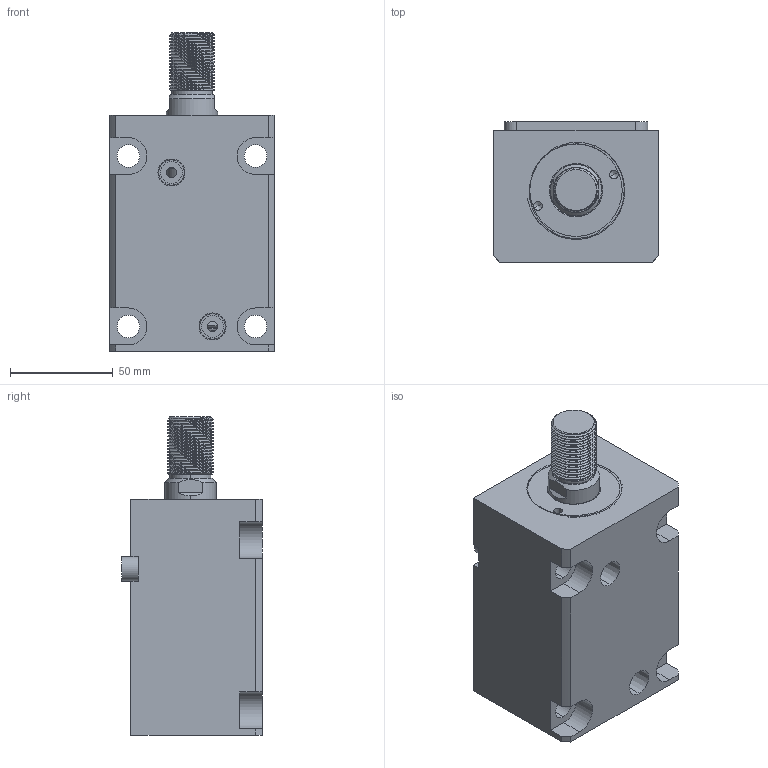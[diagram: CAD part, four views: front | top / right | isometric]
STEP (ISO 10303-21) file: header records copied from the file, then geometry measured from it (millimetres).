
FILE_DESCRIPTION (( 'STEP AP214' ), '1' );
FILE_NAME ('chtb-la40x60w_asm.STEP', '2018-06-02T07:47:18', ( 'Windows' ), ( 'Microsoft' ), 'SwSTEP 2.0', 'SolidWorks 2015', '' );
FILE_SCHEMA (( 'AUTOMOTIVE_DESIGN' ));
Length unit declared in the file: millimetre
Products named in the file (5): chtb-la40x60w_asm; CHTB-SD40QG; CHTB-LA40PJ; CHTB-SD40X60WHSG; CHTB-LA40X60NBT
Assembly tree (4 placements, depth 2):
  chtb-la40x60w_asm
    CHTB-LA40X60NBT
    CHTB-SD40X60WHSG
    CHTB-LA40PJ
    CHTB-SD40QG
Bounding box: 80 x 68.5 x 155 mm (x, y, z)
Volume: 520667.4 mm3; surface area: 96695.5 mm2
Topology: 4 solids, 5 shells, 205 faces, 559 edges, 373 vertices
Faces by surface type: cylinder 111, plane 52, bspline 16, cone 14, torus 12
Entity records: 13775 total; most frequent: CARTESIAN_POINT 8706, ORIENTED_EDGE 1106, DIRECTION 926, EDGE_CURVE 553, VERTEX_POINT 373, AXIS2_PLACEMENT_3D 363, EDGE_LOOP 234, FACE_OUTER_BOUND 205
